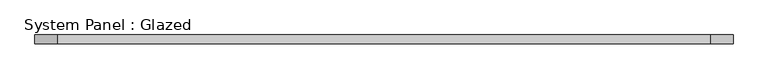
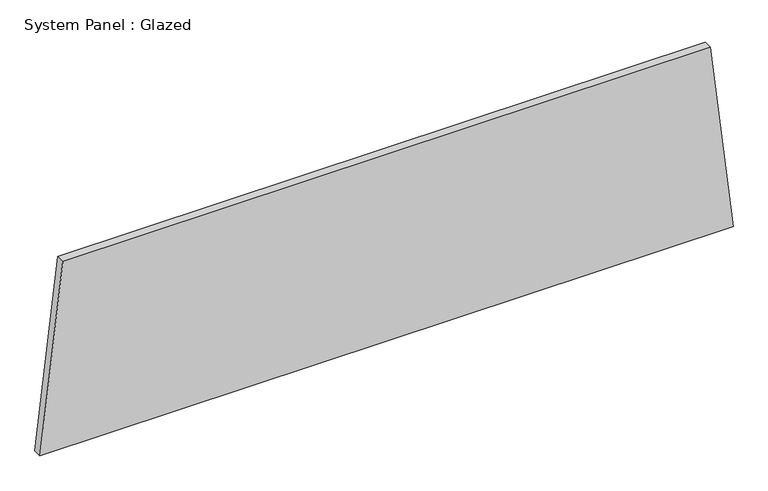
"""IFC4 building model written with IfcOpenShell, lengths in millimetres: plate geometry, System Panel : Glazed."""

from ifc_helpers import new_model, si_unit, frame, origin, place, context, project, spatial, polyline, outline, extrude, source, transform, mapped, element, save


def system_panel_glazed_5e26bc8e(model_context):
    return source(origin(), model_context, "Body", "SweptSolid", [
        extrude(outline(polyline([(0.0, -1017.2156884), (0.0, 1017.2156884), (580.1853211, 950.2984421), (580.1853211, -950.2984421), (0.0, -1017.2156884)])), frame((0.0, 19.05, 0.0), z_axis=(0.0, 1.0, 0.0), x_axis=(0.0, 0.0, 1.0)), (0.0, 0.0, 1.0), 25.4),
    ])


if __name__ == "__main__":
    model = new_model("IFC4")
    model_context = context("Model", 3, world=origin())
    ifc_project = project(units=[si_unit("LENGTHUNIT", "METRE", prefix="MILLI")], contexts=[model_context])
    site = spatial("IfcSite", under=ifc_project)
    building = spatial("IfcBuilding", under=site)
    placement = place(None, origin())
    system_panel_glazed_shape = system_panel_glazed_5e26bc8e(model_context)
    element("IfcPlate", 1, ObjectType="System Panel : Glazed", at=placement, inside=building, context=model_context, shape_type="MappedRepresentation", body=[
        mapped(system_panel_glazed_shape, transform((0.0, 0.0, 0.0), x_axis=(1.0, 0.0, 0.0), y_axis=(0.0, 1.0, 0.0), z_axis=(0.0, 0.0, 1.0))),
    ])
    save(model, "model.ifc")
